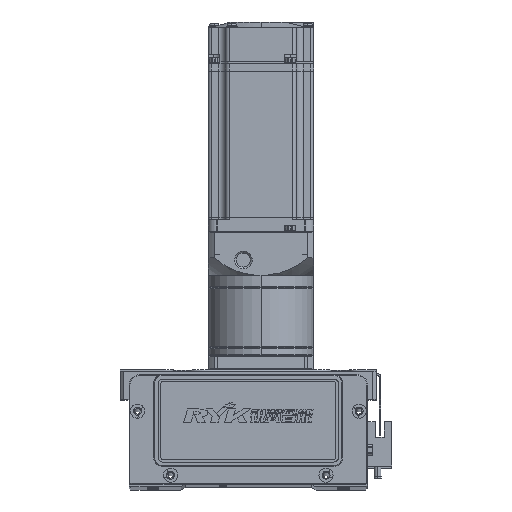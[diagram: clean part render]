
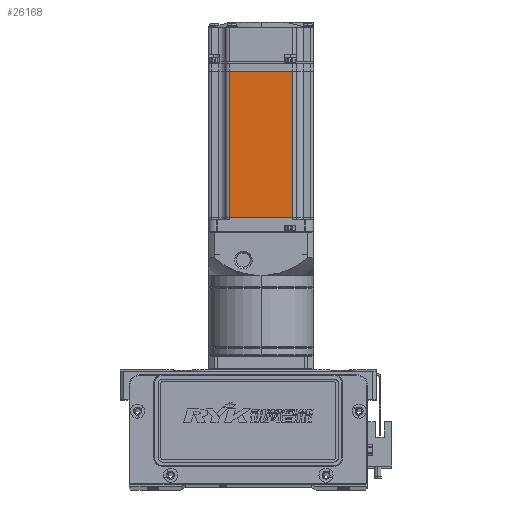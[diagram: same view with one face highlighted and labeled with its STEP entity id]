
A CAD part, top view. The second image highlights one B-rep face of the part: STEP entity #26168.
In plain terms, the highlighted planar face has unit normal (0, 0, 1).
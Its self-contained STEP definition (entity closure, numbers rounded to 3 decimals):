
#1893 = CARTESIAN_POINT ( 'NONE',  ( -7.75, 18., 30. ) ) ;
#3924 = LINE ( 'NONE', #36565, #47523 ) ;
#4404 = DIRECTION ( 'NONE',  ( 1., 0., 0. ) ) ;
#6928 = VERTEX_POINT ( 'NONE', #1893 ) ;
#7330 = VECTOR ( 'NONE', #12781, 1000. ) ;
#7718 = CARTESIAN_POINT ( 'NONE',  ( -90.45, 18., 30. ) ) ;
#10770 = LINE ( 'NONE', #40003, #7330 ) ;
#11226 = AXIS2_PLACEMENT_3D ( 'NONE', #63668, #63890, #4404 ) ;
#12485 = EDGE_CURVE ( 'NONE', #6928, #57027, #3924, .T. ) ;
#12781 = DIRECTION ( 'NONE',  ( -1., 0., 0. ) ) ;
#26168 = ADVANCED_FACE ( 'NONE', ( #47200 ), #58121, .T. ) ;
#28153 = CARTESIAN_POINT ( 'NONE',  ( -90.45, -18., 30. ) ) ;
#28183 = ORIENTED_EDGE ( 'NONE', *, *, #62118, .T. ) ;
#28519 = EDGE_CURVE ( 'NONE', #6928, #30481, #42737, .T. ) ;
#30481 = VERTEX_POINT ( 'NONE', #7718 ) ;
#36565 = CARTESIAN_POINT ( 'NONE',  ( -7.75, 0., 30. ) ) ;
#36737 = DIRECTION ( 'NONE',  ( 0., -1., 0. ) ) ;
#37277 = DIRECTION ( 'NONE',  ( 0., -1., 0. ) ) ;
#39277 = VECTOR ( 'NONE', #51326, 1000. ) ;
#40003 = CARTESIAN_POINT ( 'NONE',  ( -6.5, -18., 30. ) ) ;
#42737 = LINE ( 'NONE', #45644, #39277 ) ;
#42851 = VECTOR ( 'NONE', #36737, 1000. ) ;
#44854 = CARTESIAN_POINT ( 'NONE',  ( -7.75, -18., 30. ) ) ;
#45378 = LINE ( 'NONE', #63990, #42851 ) ;
#45644 = CARTESIAN_POINT ( 'NONE',  ( -6.5, 18., 30. ) ) ;
#45915 = EDGE_LOOP ( 'NONE', ( #53539, #68305, #28183, #57004 ) ) ;
#47200 = FACE_OUTER_BOUND ( 'NONE', #45915, .T. ) ;
#47523 = VECTOR ( 'NONE', #37277, 1000. ) ;
#51326 = DIRECTION ( 'NONE',  ( -1., 0., 0. ) ) ;
#53539 = ORIENTED_EDGE ( 'NONE', *, *, #12485, .F. ) ;
#56959 = VERTEX_POINT ( 'NONE', #28153 ) ;
#57004 = ORIENTED_EDGE ( 'NONE', *, *, #66811, .F. ) ;
#57027 = VERTEX_POINT ( 'NONE', #44854 ) ;
#58121 = PLANE ( 'NONE',  #11226 ) ;
#62118 = EDGE_CURVE ( 'NONE', #30481, #56959, #45378, .T. ) ;
#63668 = CARTESIAN_POINT ( 'NONE',  ( -6.5, -25., 30. ) ) ;
#63890 = DIRECTION ( 'NONE',  ( 0., 0., 1. ) ) ;
#63990 = CARTESIAN_POINT ( 'NONE',  ( -90.45, 0., 30. ) ) ;
#66811 = EDGE_CURVE ( 'NONE', #57027, #56959, #10770, .T. ) ;
#68305 = ORIENTED_EDGE ( 'NONE', *, *, #28519, .T. ) ;
